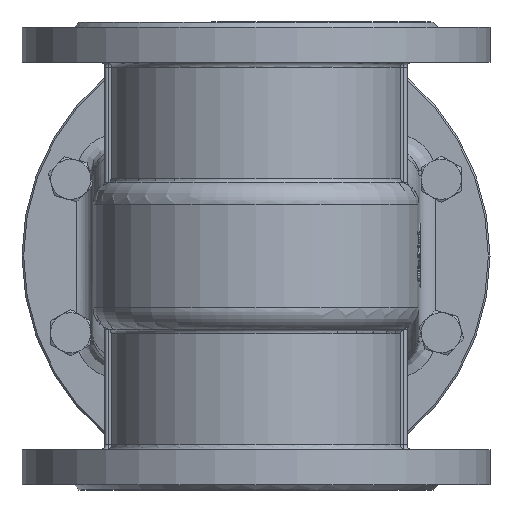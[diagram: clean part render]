
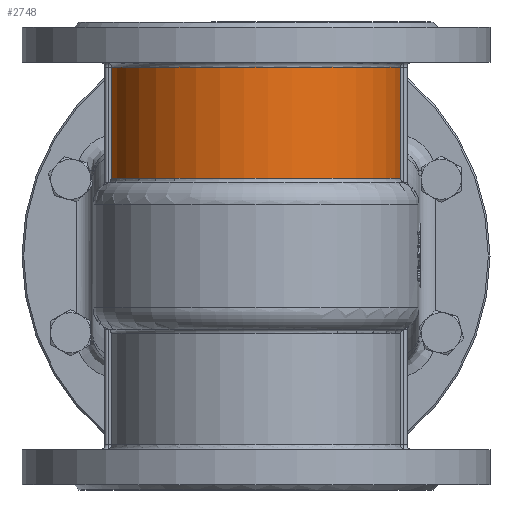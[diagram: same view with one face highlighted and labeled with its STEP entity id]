
A CAD part, front view. The second image highlights one B-rep face of the part: STEP entity #2748.
In plain terms, the highlighted cylindrical face has radius 87.5 mm (diameter 175 mm), a partial arc.
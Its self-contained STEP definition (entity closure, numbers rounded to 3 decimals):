
#2748=ADVANCED_FACE('',(#14778),#14780,.T.);
#14778=FACE_BOUND('',#14779,.T.);
#14779=EDGE_LOOP('',(#25542,#25543,#25544,#25545));
#14780=CYLINDRICAL_SURFACE('',#14781,87.5);
#14781=AXIS2_PLACEMENT_3D('',#14782,#14783,#14784);
#14782=CARTESIAN_POINT('',(0.,0.,108.017));
#14783=DIRECTION('',(0.,0.,1.));
#14784=DIRECTION('',(-0.99,-0.143,0.));
#25542=ORIENTED_EDGE('',*,*,#30963,.F.);
#25543=ORIENTED_EDGE('',*,*,#30960,.T.);
#25544=ORIENTED_EDGE('',*,*,#30785,.T.);
#25545=ORIENTED_EDGE('',*,*,#30962,.F.);
#30785=EDGE_CURVE('',#34344,#34346,#34348,.T.);
#30960=EDGE_CURVE('',#34643,#34344,#34645,.T.);
#30962=EDGE_CURVE('',#34646,#34346,#34648,.F.);
#30963=EDGE_CURVE('',#34643,#34646,#34649,.T.);
#34344=VERTEX_POINT('',#44774);
#34346=VERTEX_POINT('',#44853);
#34348=CIRCLE('',#44924,87.5);
#34643=VERTEX_POINT('',#47303);
#34645=LINE('',#47307,#47308);
#34646=VERTEX_POINT('',#47310);
#34648=LINE('',#47314,#47315);
#34649=CIRCLE('',#47317,87.5);
#44774=CARTESIAN_POINT('',(-86.603,-12.5,46.492));
#44853=CARTESIAN_POINT('',(86.603,-12.5,46.492));
#44924=AXIS2_PLACEMENT_3D('',#44925,#44926,#44927);
#44925=CARTESIAN_POINT('',(0.,0.,46.492));
#44926=DIRECTION('',(0.,0.,1.));
#44927=DIRECTION('',(-0.99,-0.143,0.));
#47303=CARTESIAN_POINT('',(-86.603,-12.5,113.));
#47307=CARTESIAN_POINT('',(-86.603,-12.5,113.));
#47308=VECTOR('',#47309,1.);
#47309=DIRECTION('',(0.,0.,-1.));
#47310=CARTESIAN_POINT('',(86.603,-12.5,113.));
#47314=CARTESIAN_POINT('',(86.603,-12.5,46.492));
#47315=VECTOR('',#47316,1.);
#47316=DIRECTION('',(0.,0.,1.));
#47317=AXIS2_PLACEMENT_3D('',#47318,#47319,#47320);
#47318=CARTESIAN_POINT('',(0.,0.,113.));
#47319=DIRECTION('',(0.,0.,1.));
#47320=DIRECTION('',(-0.99,-0.143,0.));
